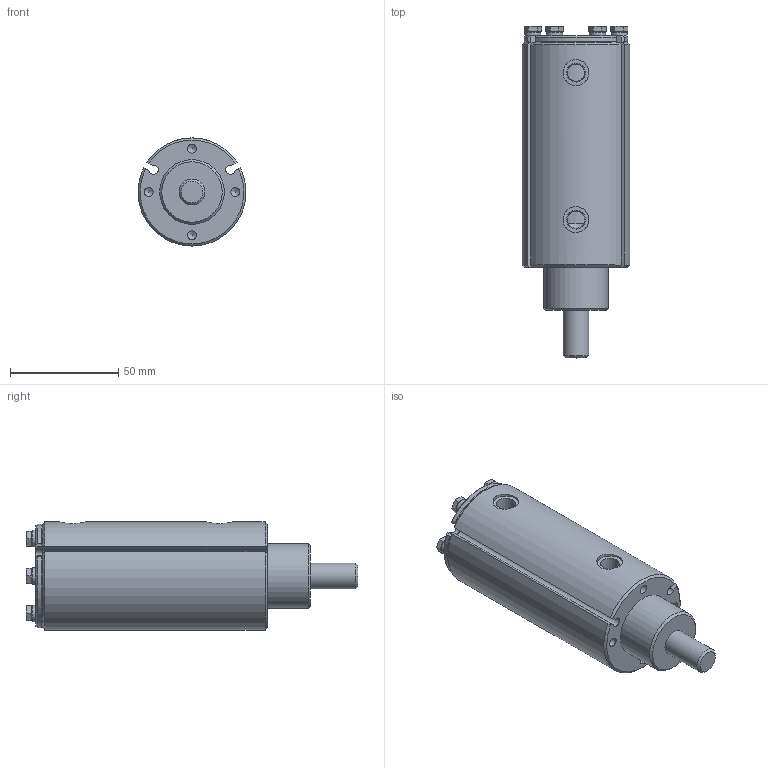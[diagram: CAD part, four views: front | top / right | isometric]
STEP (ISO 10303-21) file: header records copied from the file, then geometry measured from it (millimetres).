
FILE_DESCRIPTION(/* description */ (''),/* implementation_level */ '2;1');
FILE_NAME(/* name */ 'D:\NextGen\CD0014-TWLC_V3\3DCAD\SLC-LOCKOUT-20190105.stp',/* time_stamp */ '2019-01-05T14:16:14-05:00',/* author */ ('gskreft'),/* organization */ (''),/* preprocessor_version */ 'ST-DEVELOPER v16.13',/* originating_system */ 'Autodesk Inventor 2018',/* authorisation */ '');
FILE_SCHEMA (('CONFIG_CONTROL_DESIGN'));
Length unit declared in the file: inch
Products named in the file (3): SLA-LOCKOUT-20190105; SLA-LOCKOUT-ASM; PSFHC12-72-MD6-H43-3DCAD
Assembly tree (2 placements, depth 2):
  SLA-LOCKOUT-20190105
    SLA-LOCKOUT-ASM
    PSFHC12-72-MD6-H43-3DCAD
Bounding box: 49.95 x 153.6 x 50 mm (x, y, z)
Volume: 204604.7 mm3; surface area: 46402.6 mm2
Topology: 15 solids, 15 shells, 221 faces, 478 edges, 307 vertices
Faces by surface type: plane 98, cone 65, cylinder 58
Full cylindrical faces by diameter (mm): 3.242 x6, 4 x6, 4.134 x4, 4.4 x6, 4.5 x6, 6.3 x6, 7.6 x6, 7.95 x2, 12 x4, 29.95 x1, 32 x1, 32.025 x1
Entity records: 5588 total; most frequent: CARTESIAN_POINT 1175, DIRECTION 920, ORIENTED_EDGE 760, AXIS2_PLACEMENT_3D 401, EDGE_CURVE 380, EDGE_LOOP 336, VERTEX_POINT 278, FACE_OUTER_BOUND 221
